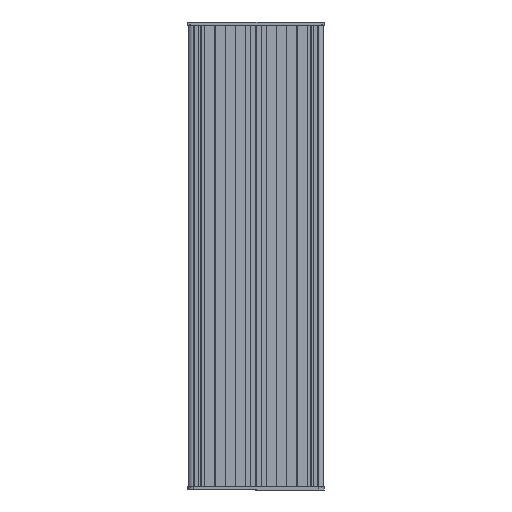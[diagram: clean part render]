
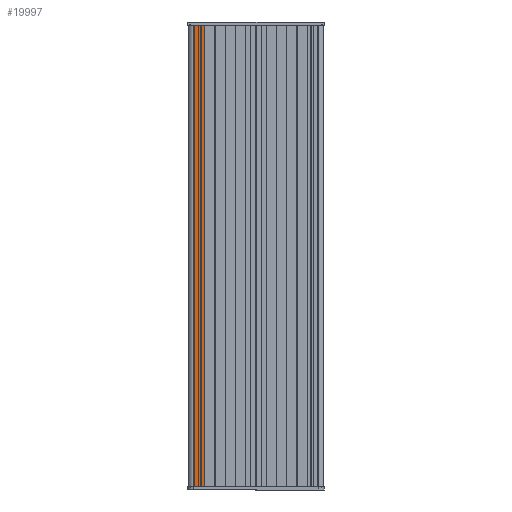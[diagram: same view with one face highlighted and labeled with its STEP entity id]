
A CAD part, left-side view. The second image highlights one B-rep face of the part: STEP entity #19997.
In plain terms, the highlighted planar face has unit normal (-1, 0, 0) as drawn and (0, -1, 0) by its records, which use the part's own axes.
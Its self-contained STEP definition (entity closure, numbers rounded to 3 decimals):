
#1756 = FACE_OUTER_BOUND ( 'NONE', #25348, .T. ) ;
#3022 = VECTOR ( 'NONE', #16132, 1000. ) ;
#3515 = VECTOR ( 'NONE', #16876, 1000. ) ;
#5139 = DIRECTION ( 'NONE',  ( 1., 0., 0. ) ) ;
#7246 = AXIS2_PLACEMENT_3D ( 'NONE', #30912, #14644, #5139 ) ;
#7755 = VECTOR ( 'NONE', #18416, 1000. ) ;
#7869 = ORIENTED_EDGE ( 'NONE', *, *, #10155, .F. ) ;
#8177 = EDGE_CURVE ( 'NONE', #9609, #22972, #22987, .T. ) ;
#8851 = VERTEX_POINT ( 'NONE', #28184 ) ;
#9609 = VERTEX_POINT ( 'NONE', #39786 ) ;
#10155 = EDGE_CURVE ( 'NONE', #30906, #8851, #31103, .T. ) ;
#12468 = ORIENTED_EDGE ( 'NONE', *, *, #40374, .F. ) ;
#12946 = LINE ( 'NONE', #31971, #3022 ) ;
#14644 = DIRECTION ( 'NONE',  ( 0., -1., 0. ) ) ;
#16132 = DIRECTION ( 'NONE',  ( 1., 0., 0. ) ) ;
#16149 = ORIENTED_EDGE ( 'NONE', *, *, #17151, .T. ) ;
#16876 = DIRECTION ( 'NONE',  ( 0., 0., -1. ) ) ;
#17073 = CARTESIAN_POINT ( 'NONE',  ( 10.95, -5., -225. ) ) ;
#17151 = EDGE_CURVE ( 'NONE', #30906, #22972, #12946, .T. ) ;
#18416 = DIRECTION ( 'NONE',  ( 0., 0., 1. ) ) ;
#19997 = ADVANCED_FACE ( 'NONE', ( #1756 ), #40040, .T. ) ;
#21173 = CARTESIAN_POINT ( 'NONE',  ( 1.2, -5., -225. ) ) ;
#22972 = VERTEX_POINT ( 'NONE', #32680 ) ;
#22987 = LINE ( 'NONE', #17073, #3515 ) ;
#23815 = DIRECTION ( 'NONE',  ( 1., 0., 0. ) ) ;
#24128 = VECTOR ( 'NONE', #23815, 1000. ) ;
#24239 = CARTESIAN_POINT ( 'NONE',  ( 8., -5., 225. ) ) ;
#25348 = EDGE_LOOP ( 'NONE', ( #7869, #16149, #35999, #12468 ) ) ;
#28184 = CARTESIAN_POINT ( 'NONE',  ( 1.2, -5., 225. ) ) ;
#29936 = LINE ( 'NONE', #24239, #24128 ) ;
#30906 = VERTEX_POINT ( 'NONE', #31793 ) ;
#30912 = CARTESIAN_POINT ( 'NONE',  ( 8., -5., -225. ) ) ;
#31103 = LINE ( 'NONE', #21173, #7755 ) ;
#31793 = CARTESIAN_POINT ( 'NONE',  ( 1.2, -5., -225. ) ) ;
#31971 = CARTESIAN_POINT ( 'NONE',  ( 8., -5., -225. ) ) ;
#32680 = CARTESIAN_POINT ( 'NONE',  ( 10.95, -5., -225. ) ) ;
#35999 = ORIENTED_EDGE ( 'NONE', *, *, #8177, .F. ) ;
#39786 = CARTESIAN_POINT ( 'NONE',  ( 10.95, -5., 225. ) ) ;
#40040 = PLANE ( 'NONE',  #7246 ) ;
#40374 = EDGE_CURVE ( 'NONE', #8851, #9609, #29936, .T. ) ;
